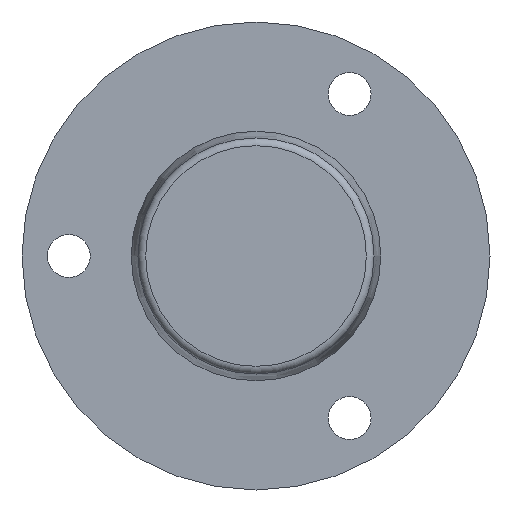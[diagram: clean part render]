
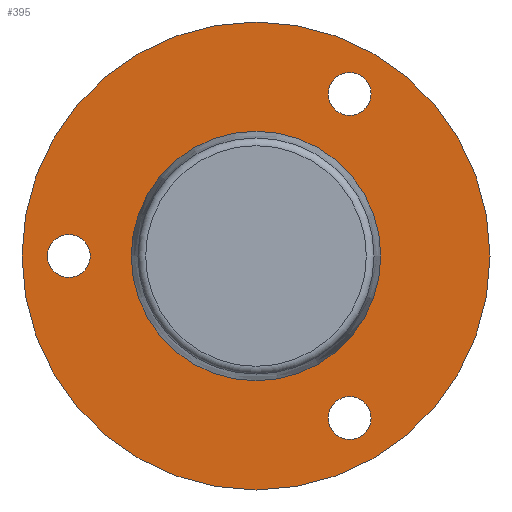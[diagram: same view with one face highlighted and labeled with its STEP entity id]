
A CAD part, left-side view. The second image highlights one B-rep face of the part: STEP entity #395.
In plain terms, the highlighted planar face has unit normal (-1, 0, 0).
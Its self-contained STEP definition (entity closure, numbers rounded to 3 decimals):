
#24=FACE_BOUND('',#80,.T.);
#25=FACE_BOUND('',#81,.T.);
#26=FACE_BOUND('',#82,.T.);
#27=FACE_BOUND('',#83,.T.);
#35=PLANE('',#456);
#50=FACE_OUTER_BOUND('',#79,.T.);
#79=EDGE_LOOP('',(#285));
#80=EDGE_LOOP('',(#286));
#81=EDGE_LOOP('',(#287));
#82=EDGE_LOOP('',(#288));
#83=EDGE_LOOP('',(#289));
#137=CIRCLE('',#432,2.75);
#141=CIRCLE('',#439,2.75);
#145=CIRCLE('',#446,2.75);
#150=CIRCLE('',#455,15.5);
#151=CIRCLE('',#457,30.);
#169=VERTEX_POINT('',#627);
#173=VERTEX_POINT('',#640);
#177=VERTEX_POINT('',#653);
#182=VERTEX_POINT('',#670);
#183=VERTEX_POINT('',#674);
#200=EDGE_CURVE('',#169,#169,#137,.T.);
#206=EDGE_CURVE('',#173,#173,#141,.T.);
#212=EDGE_CURVE('',#177,#177,#145,.T.);
#219=EDGE_CURVE('',#182,#182,#150,.T.);
#221=EDGE_CURVE('',#183,#183,#151,.T.);
#285=ORIENTED_EDGE('',*,*,#221,.F.);
#286=ORIENTED_EDGE('',*,*,#200,.T.);
#287=ORIENTED_EDGE('',*,*,#206,.T.);
#288=ORIENTED_EDGE('',*,*,#212,.T.);
#289=ORIENTED_EDGE('',*,*,#219,.T.);
#395=ADVANCED_FACE('',(#50,#24,#25,#26,#27),#35,.T.);
#432=AXIS2_PLACEMENT_3D('',#629,#495,#496);
#439=AXIS2_PLACEMENT_3D('',#642,#511,#512);
#446=AXIS2_PLACEMENT_3D('',#655,#527,#528);
#455=AXIS2_PLACEMENT_3D('',#671,#547,#548);
#456=AXIS2_PLACEMENT_3D('',#673,#550,#551);
#457=AXIS2_PLACEMENT_3D('',#675,#552,#553);
#495=DIRECTION('center_axis',(1.,0.,0.));
#496=DIRECTION('ref_axis',(0.,-0.866,0.5));
#511=DIRECTION('center_axis',(1.,0.,0.));
#512=DIRECTION('ref_axis',(0.,0.866,0.5));
#527=DIRECTION('center_axis',(1.,0.,0.));
#528=DIRECTION('ref_axis',(0.,0.,-1.));
#547=DIRECTION('center_axis',(1.,0.,0.));
#548=DIRECTION('ref_axis',(0.,0.,-1.));
#550=DIRECTION('center_axis',(-1.,0.,0.));
#551=DIRECTION('ref_axis',(0.,0.,1.));
#552=DIRECTION('center_axis',(1.,0.,0.));
#553=DIRECTION('ref_axis',(0.,0.,-1.));
#627=CARTESIAN_POINT('',(70.,-9.618,-22.16));
#629=CARTESIAN_POINT('Origin',(70.,-12.,-20.785));
#640=CARTESIAN_POINT('',(70.,-14.382,19.41));
#642=CARTESIAN_POINT('Origin',(70.,-12.,20.785));
#653=CARTESIAN_POINT('',(70.,24.,2.75));
#655=CARTESIAN_POINT('Origin',(70.,24.,0.));
#670=CARTESIAN_POINT('',(70.,-15.5,0.));
#671=CARTESIAN_POINT('Origin',(70.,0.,0.));
#673=CARTESIAN_POINT('Origin',(70.,30.,0.));
#674=CARTESIAN_POINT('',(70.,-30.,0.));
#675=CARTESIAN_POINT('Origin',(70.,0.,0.));
